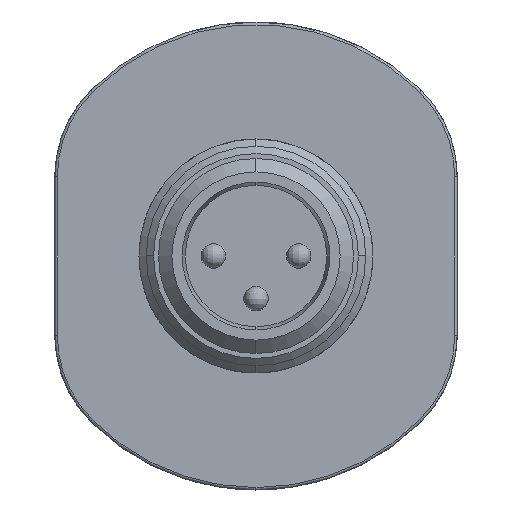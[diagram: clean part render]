
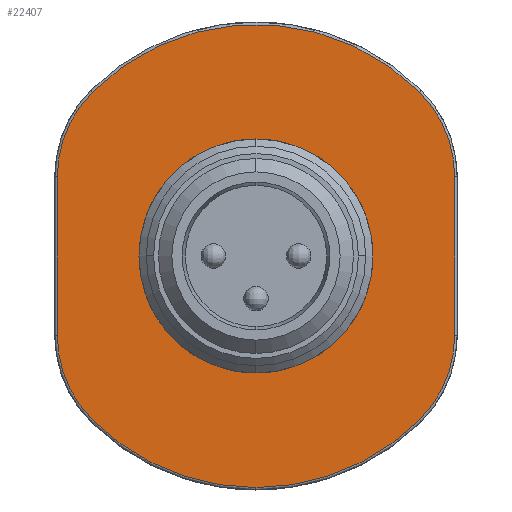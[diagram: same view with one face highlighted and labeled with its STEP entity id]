
A CAD part, left-side view. The second image highlights one B-rep face of the part: STEP entity #22407.
In plain terms, the highlighted planar face has unit normal (-1, 0, 0).
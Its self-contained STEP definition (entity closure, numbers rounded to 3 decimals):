
#23 = VERTEX_POINT ( 'NONE', #2214 ) ;
#211 = DIRECTION ( 'NONE',  ( 1., 0., 0. ) ) ;
#342 = EDGE_CURVE ( 'NONE', #23, #25122, #16019, .T. ) ;
#507 = VERTEX_POINT ( 'NONE', #18747 ) ;
#783 = CARTESIAN_POINT ( 'NONE',  ( -16.25, 8.15, -3.255 ) ) ;
#1161 = AXIS2_PLACEMENT_3D ( 'NONE', #32863, #4088, #32695 ) ;
#1171 = AXIS2_PLACEMENT_3D ( 'NONE', #26997, #8880, #19406 ) ;
#1250 = CARTESIAN_POINT ( 'NONE',  ( -16.25, -6.712, -6.723 ) ) ;
#1355 = EDGE_CURVE ( 'NONE', #12244, #5679, #16009, .T. ) ;
#2214 = CARTESIAN_POINT ( 'NONE',  ( -16.25, 0., -2.9 ) ) ;
#2609 = ORIENTED_EDGE ( 'NONE', *, *, #342, .F. ) ;
#2970 = CIRCLE ( 'NONE', #22265, 4.9 ) ;
#3015 = CARTESIAN_POINT ( 'NONE',  ( -16.25, 0., 0. ) ) ;
#3153 = CIRCLE ( 'NONE', #23018, 9.5 ) ;
#3379 = CIRCLE ( 'NONE', #22679, 2.9 ) ;
#3380 = LINE ( 'NONE', #29747, #28990 ) ;
#3455 = CARTESIAN_POINT ( 'NONE',  ( -16.25, 8.15, 0. ) ) ;
#3582 = ORIENTED_EDGE ( 'NONE', *, *, #17866, .F. ) ;
#3972 = VERTEX_POINT ( 'NONE', #9404 ) ;
#4088 = DIRECTION ( 'NONE',  ( 1., 0., 0. ) ) ;
#4386 = ORIENTED_EDGE ( 'NONE', *, *, #7940, .F. ) ;
#5379 = CARTESIAN_POINT ( 'NONE',  ( -16.25, 0., 0. ) ) ;
#5541 = CARTESIAN_POINT ( 'NONE',  ( -16.25, 0., -9.5 ) ) ;
#5559 = EDGE_LOOP ( 'NONE', ( #18726, #14445, #3582, #23145, #16939, #26952, #24256, #11945, #4386 ) ) ;
#5679 = VERTEX_POINT ( 'NONE', #1250 ) ;
#5761 = CARTESIAN_POINT ( 'NONE',  ( -16.25, -8.15, -3.255 ) ) ;
#5858 = VERTEX_POINT ( 'NONE', #13604 ) ;
#5949 = DIRECTION ( 'NONE',  ( 0., 0., -1. ) ) ;
#6133 = DIRECTION ( 'NONE',  ( 0., 0., -1. ) ) ;
#6701 = EDGE_CURVE ( 'NONE', #10475, #18248, #29621, .T. ) ;
#7940 = EDGE_CURVE ( 'NONE', #5858, #3972, #32232, .T. ) ;
#8880 = DIRECTION ( 'NONE',  ( -1., 0., 0. ) ) ;
#9153 = DIRECTION ( 'NONE',  ( 0., 1., 0. ) ) ;
#9404 = CARTESIAN_POINT ( 'NONE',  ( -16.25, -8.15, 3.255 ) ) ;
#10245 = VERTEX_POINT ( 'NONE', #16149 ) ;
#10475 = VERTEX_POINT ( 'NONE', #5541 ) ;
#10581 = EDGE_CURVE ( 'NONE', #25122, #23, #3379, .T. ) ;
#10733 = CARTESIAN_POINT ( 'NONE',  ( -16.25, 3.25, -3.255 ) ) ;
#10853 = CARTESIAN_POINT ( 'NONE',  ( -16.25, 0., 0. ) ) ;
#11705 = ORIENTED_EDGE ( 'NONE', *, *, #10581, .F. ) ;
#11945 = ORIENTED_EDGE ( 'NONE', *, *, #20053, .F. ) ;
#12244 = VERTEX_POINT ( 'NONE', #5761 ) ;
#13371 = FACE_OUTER_BOUND ( 'NONE', #5559, .T. ) ;
#13604 = CARTESIAN_POINT ( 'NONE',  ( -16.25, -6.712, 6.723 ) ) ;
#13760 = EDGE_CURVE ( 'NONE', #10245, #507, #2970, .T. ) ;
#14337 = DIRECTION ( 'NONE',  ( 0., 0., 1. ) ) ;
#14445 = ORIENTED_EDGE ( 'NONE', *, *, #13760, .F. ) ;
#14845 = CARTESIAN_POINT ( 'NONE',  ( -16.25, -3.25, 3.255 ) ) ;
#15575 = EDGE_CURVE ( 'NONE', #18248, #26702, #16958, .T. ) ;
#15933 = CARTESIAN_POINT ( 'NONE',  ( -16.25, 0., 0. ) ) ;
#16009 = CIRCLE ( 'NONE', #1161, 4.9 ) ;
#16019 = CIRCLE ( 'NONE', #1171, 2.9 ) ;
#16149 = CARTESIAN_POINT ( 'NONE',  ( -16.25, 8.15, 3.255 ) ) ;
#16280 = DIRECTION ( 'NONE',  ( 0., 1., 0. ) ) ;
#16557 = AXIS2_PLACEMENT_3D ( 'NONE', #3015, #29559, #5949 ) ;
#16742 = EDGE_CURVE ( 'NONE', #5679, #10475, #33427, .T. ) ;
#16939 = ORIENTED_EDGE ( 'NONE', *, *, #6701, .F. ) ;
#16958 = CIRCLE ( 'NONE', #24117, 4.9 ) ;
#17294 = EDGE_CURVE ( 'NONE', #507, #5858, #3153, .T. ) ;
#17416 = LINE ( 'NONE', #3455, #31268 ) ;
#17866 = EDGE_CURVE ( 'NONE', #26702, #10245, #17416, .T. ) ;
#18248 = VERTEX_POINT ( 'NONE', #31024 ) ;
#18486 = AXIS2_PLACEMENT_3D ( 'NONE', #14845, #30508, #9153 ) ;
#18674 = DIRECTION ( 'NONE',  ( 0., 1., 0. ) ) ;
#18723 = PLANE ( 'NONE',  #16557 ) ;
#18726 = ORIENTED_EDGE ( 'NONE', *, *, #17294, .F. ) ;
#18747 = CARTESIAN_POINT ( 'NONE',  ( -16.25, 6.712, 6.723 ) ) ;
#19183 = AXIS2_PLACEMENT_3D ( 'NONE', #5379, #211, #33829 ) ;
#19202 = DIRECTION ( 'NONE',  ( 1., 0., 0. ) ) ;
#19406 = DIRECTION ( 'NONE',  ( 0., 0., -1. ) ) ;
#20053 = EDGE_CURVE ( 'NONE', #3972, #12244, #3380, .T. ) ;
#21256 = DIRECTION ( 'NONE',  ( 1., 0., 0. ) ) ;
#21354 = DIRECTION ( 'NONE',  ( 0., 0., -1. ) ) ;
#21372 = DIRECTION ( 'NONE',  ( 0., 0., -1. ) ) ;
#21523 = CARTESIAN_POINT ( 'NONE',  ( -16.25, 0., 0. ) ) ;
#21627 = CARTESIAN_POINT ( 'NONE',  ( -16.25, 3.25, 3.255 ) ) ;
#22265 = AXIS2_PLACEMENT_3D ( 'NONE', #21627, #27321, #16280 ) ;
#22407 = ADVANCED_FACE ( 'NONE', ( #13371, #31975 ), #18723, .F. ) ;
#22679 = AXIS2_PLACEMENT_3D ( 'NONE', #10853, #31205, #21372 ) ;
#23018 = AXIS2_PLACEMENT_3D ( 'NONE', #15933, #19202, #29699 ) ;
#23145 = ORIENTED_EDGE ( 'NONE', *, *, #15575, .F. ) ;
#23292 = CARTESIAN_POINT ( 'NONE',  ( -16.25, 0., 2.9 ) ) ;
#24112 = DIRECTION ( 'NONE',  ( 1., 0., 0. ) ) ;
#24117 = AXIS2_PLACEMENT_3D ( 'NONE', #10733, #21256, #18674 ) ;
#24256 = ORIENTED_EDGE ( 'NONE', *, *, #1355, .F. ) ;
#25122 = VERTEX_POINT ( 'NONE', #23292 ) ;
#25744 = AXIS2_PLACEMENT_3D ( 'NONE', #21523, #24112, #21354 ) ;
#26702 = VERTEX_POINT ( 'NONE', #783 ) ;
#26952 = ORIENTED_EDGE ( 'NONE', *, *, #16742, .F. ) ;
#26997 = CARTESIAN_POINT ( 'NONE',  ( -16.25, 0., 0. ) ) ;
#27321 = DIRECTION ( 'NONE',  ( 1., 0., 0. ) ) ;
#27366 = EDGE_LOOP ( 'NONE', ( #2609, #11705 ) ) ;
#28990 = VECTOR ( 'NONE', #6133, 1000. ) ;
#29559 = DIRECTION ( 'NONE',  ( 1., 0., 0. ) ) ;
#29621 = CIRCLE ( 'NONE', #19183, 9.5 ) ;
#29699 = DIRECTION ( 'NONE',  ( 0., 0., -1. ) ) ;
#29747 = CARTESIAN_POINT ( 'NONE',  ( -16.25, -8.15, 0. ) ) ;
#30508 = DIRECTION ( 'NONE',  ( 1., 0., 0. ) ) ;
#31024 = CARTESIAN_POINT ( 'NONE',  ( -16.25, 6.712, -6.723 ) ) ;
#31205 = DIRECTION ( 'NONE',  ( -1., 0., 0. ) ) ;
#31268 = VECTOR ( 'NONE', #14337, 1000. ) ;
#31975 = FACE_BOUND ( 'NONE', #27366, .T. ) ;
#32232 = CIRCLE ( 'NONE', #18486, 4.9 ) ;
#32695 = DIRECTION ( 'NONE',  ( 0., 1., 0. ) ) ;
#32863 = CARTESIAN_POINT ( 'NONE',  ( -16.25, -3.25, -3.255 ) ) ;
#33427 = CIRCLE ( 'NONE', #25744, 9.5 ) ;
#33829 = DIRECTION ( 'NONE',  ( 0., 0., -1. ) ) ;
